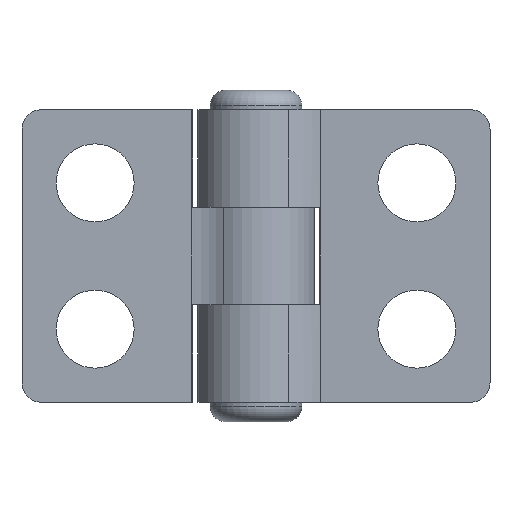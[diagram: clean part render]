
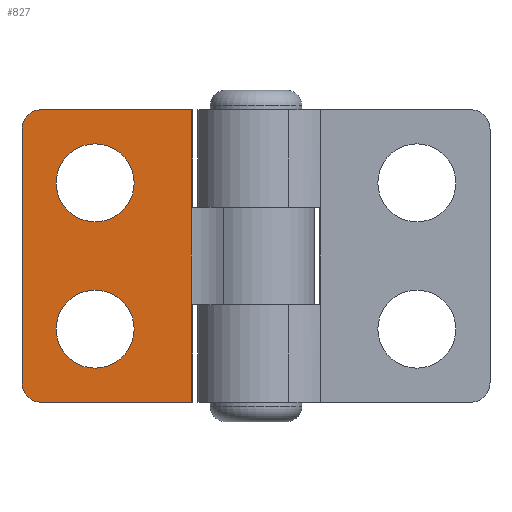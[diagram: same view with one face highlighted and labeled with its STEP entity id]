
A CAD part, front view. The second image highlights one B-rep face of the part: STEP entity #827.
In plain terms, the highlighted planar face has unit normal (0, -1, 0).
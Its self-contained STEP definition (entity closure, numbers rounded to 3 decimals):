
#31=FACE_BOUND('',#196,.T.);
#32=FACE_BOUND('',#197,.T.);
#85=CIRCLE('',#894,2.);
#87=CIRCLE('',#898,2.);
#88=CIRCLE('',#900,1.);
#89=CIRCLE('',#903,1.);
#137=FACE_OUTER_BOUND('',#195,.T.);
#195=EDGE_LOOP('',(#627,#628,#629,#630,#631,#632));
#196=EDGE_LOOP('',(#633));
#197=EDGE_LOOP('',(#634));
#265=LINE('',#1298,#324);
#266=LINE('',#1302,#325);
#273=LINE('',#1338,#332);
#275=LINE('',#1341,#334);
#324=VECTOR('',#1018,7.683);
#325=VECTOR('',#1023,15.);
#332=VECTOR('',#1064,13.);
#334=VECTOR('',#1068,7.683);
#388=VERTEX_POINT('',#1295);
#389=VERTEX_POINT('',#1297);
#390=VERTEX_POINT('',#1301);
#397=VERTEX_POINT('',#1322);
#399=VERTEX_POINT('',#1328);
#400=VERTEX_POINT('',#1331);
#401=VERTEX_POINT('',#1333);
#402=VERTEX_POINT('',#1337);
#473=EDGE_CURVE('',#388,#389,#265,.T.);
#475=EDGE_CURVE('',#389,#390,#266,.T.);
#486=EDGE_CURVE('',#397,#397,#85,.T.);
#488=EDGE_CURVE('',#399,#399,#87,.T.);
#490=EDGE_CURVE('',#400,#401,#88,.T.);
#492=EDGE_CURVE('',#402,#401,#273,.T.);
#494=EDGE_CURVE('',#390,#400,#275,.T.);
#495=EDGE_CURVE('',#402,#388,#89,.T.);
#627=ORIENTED_EDGE('',*,*,#490,.F.);
#628=ORIENTED_EDGE('',*,*,#494,.F.);
#629=ORIENTED_EDGE('',*,*,#475,.F.);
#630=ORIENTED_EDGE('',*,*,#473,.F.);
#631=ORIENTED_EDGE('',*,*,#495,.F.);
#632=ORIENTED_EDGE('',*,*,#492,.T.);
#633=ORIENTED_EDGE('',*,*,#486,.T.);
#634=ORIENTED_EDGE('',*,*,#488,.T.);
#797=PLANE('',#902);
#827=ADVANCED_FACE('',(#137,#31,#32),#797,.T.);
#894=AXIS2_PLACEMENT_3D('',#1323,#1046,#1047);
#898=AXIS2_PLACEMENT_3D('',#1329,#1054,#1055);
#900=AXIS2_PLACEMENT_3D('',#1334,#1059,#1060);
#902=AXIS2_PLACEMENT_3D('',#1340,#1066,#1067);
#903=AXIS2_PLACEMENT_3D('',#1342,#1069,#1070);
#1018=DIRECTION('',(1.,0.,0.));
#1023=DIRECTION('',(0.,0.,-1.));
#1046=DIRECTION('center_axis',(0.,1.,0.));
#1047=DIRECTION('ref_axis',(1.,0.,0.));
#1054=DIRECTION('center_axis',(0.,1.,0.));
#1055=DIRECTION('ref_axis',(1.,0.,0.));
#1059=DIRECTION('center_axis',(0.,1.,0.));
#1060=DIRECTION('ref_axis',(-0.707,0.,-0.707));
#1064=DIRECTION('',(0.,0.,-1.));
#1066=DIRECTION('center_axis',(0.,-1.,0.));
#1067=DIRECTION('ref_axis',(1.,0.,0.));
#1068=DIRECTION('',(-1.,0.,0.));
#1069=DIRECTION('center_axis',(0.,1.,0.));
#1070=DIRECTION('ref_axis',(-0.707,0.,0.707));
#1295=CARTESIAN_POINT('',(-11.,-2.,7.5));
#1297=CARTESIAN_POINT('',(-3.317,-2.,7.5));
#1298=CARTESIAN_POINT('',(-12.,-2.,7.5));
#1301=CARTESIAN_POINT('',(-3.317,-2.,-7.5));
#1302=CARTESIAN_POINT('',(-3.317,-2.,0.));
#1322=CARTESIAN_POINT('',(-10.25,-2.,-3.75));
#1323=CARTESIAN_POINT('Origin',(-8.25,-2.,-3.75));
#1328=CARTESIAN_POINT('',(-10.25,-2.,3.75));
#1329=CARTESIAN_POINT('Origin',(-8.25,-2.,3.75));
#1331=CARTESIAN_POINT('',(-11.,-2.,-7.5));
#1333=CARTESIAN_POINT('',(-12.,-2.,-6.5));
#1334=CARTESIAN_POINT('Origin',(-11.,-2.,-6.5));
#1337=CARTESIAN_POINT('',(-12.,-2.,6.5));
#1338=CARTESIAN_POINT('',(-12.,-2.,0.));
#1340=CARTESIAN_POINT('Origin',(-12.,-2.,0.));
#1341=CARTESIAN_POINT('',(-12.,-2.,-7.5));
#1342=CARTESIAN_POINT('Origin',(-11.,-2.,6.5));
